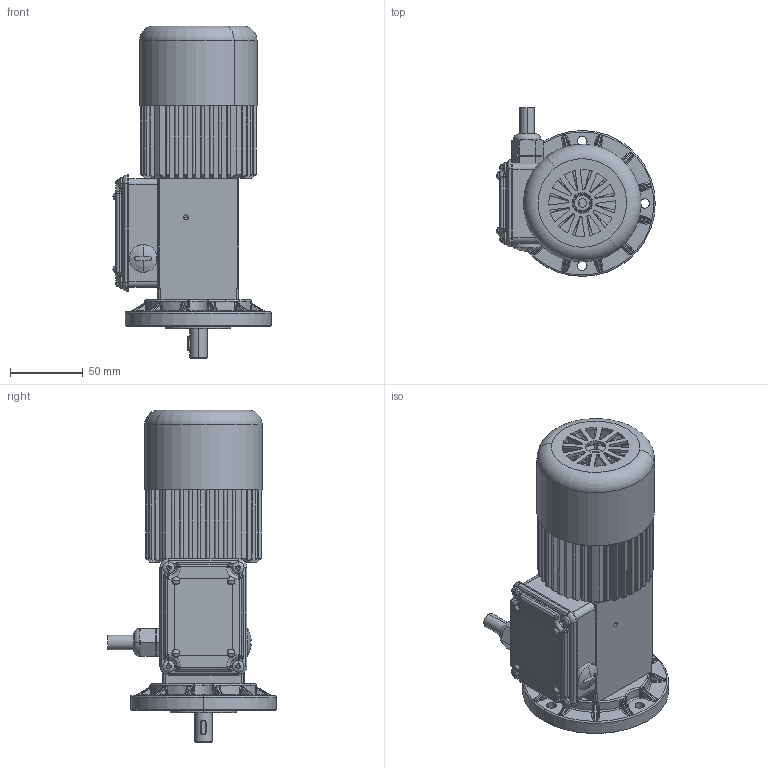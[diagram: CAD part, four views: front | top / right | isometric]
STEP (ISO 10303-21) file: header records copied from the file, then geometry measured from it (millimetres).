
FILE_DESCRIPTION((''),'2;1');
FILE_NAME('C:\Documents and Settings\marco\Desktop\DATI\DATI MARCO\Disegni inventor\STEP\AC\AC_P-B5.stp','2003-08-26T15:09:49',('Administrator'),(''),'Autodesk Inventor 7','Autodesk Inventor 7','');
FILE_SCHEMA(('AUTOMOTIVE_DESIGN { 1 0 10303 214 1 1 1 1 }'));
Length unit declared in the file: millimetre
Products named in the file (1): AC_P-B5
Bounding box: 109.2 x 116.25 x 228.68 mm (x, y, z)
Volume: 401712.5 mm3; surface area: 221892.6 mm2
Topology: 20 solids, 20 shells, 3262 faces, 9050 edges, 5531 vertices
Faces by surface type: cylinder 1235, plane 924, bspline 648, torus 231, cone 200, sphere 24
Entity records: 122303 total; most frequent: CARTESIAN_POINT 40293, DIRECTION 17747, ORIENTED_EDGE 17664, EDGE_CURVE 8832, AXIS2_PLACEMENT_3D 7037, VERTEX_POINT 5531, CIRCLE 4260, VECTOR 3673
